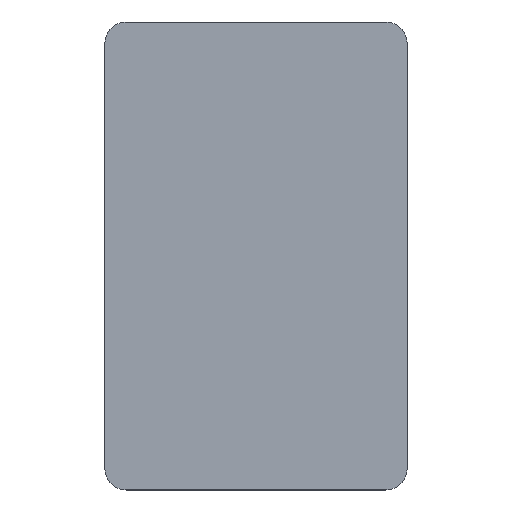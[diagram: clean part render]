
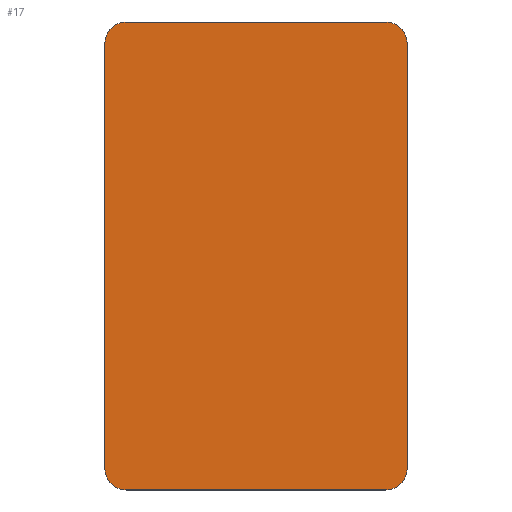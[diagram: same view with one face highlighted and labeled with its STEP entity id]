
A CAD part, top view. The second image highlights one B-rep face of the part: STEP entity #17.
In plain terms, the highlighted planar face has unit normal (0, 0, 1).
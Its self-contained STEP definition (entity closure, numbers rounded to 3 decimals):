
#17 = ADVANCED_FACE('',(#18),#33,.T.);
#18 = FACE_BOUND('',#19,.T.);
#19 = EDGE_LOOP('',(#20,#56,#84,#113,#141,#170,#198,#227));
#20 = ORIENTED_EDGE('',*,*,#21,.T.);
#21 = EDGE_CURVE('',#22,#24,#26,.T.);
#22 = VERTEX_POINT('',#23);
#23 = CARTESIAN_POINT('',(-21.,-35.5,-0.4));
#24 = VERTEX_POINT('',#25);
#25 = CARTESIAN_POINT('',(-18.,-38.5,-0.4));
#26 = SURFACE_CURVE('',#27,(#32,#44),.PCURVE_S1.);
#27 = CIRCLE('',#28,3.);
#28 = AXIS2_PLACEMENT_3D('',#29,#30,#31);
#29 = CARTESIAN_POINT('',(-18.,-35.5,-0.4));
#30 = DIRECTION('',(0.,0.,1.));
#31 = DIRECTION('',(1.,0.,-0.));
#32 = PCURVE('',#33,#38);
#33 = PLANE('',#34);
#34 = AXIS2_PLACEMENT_3D('',#35,#36,#37);
#35 = CARTESIAN_POINT('',(-18.,-38.5,-0.4));
#36 = DIRECTION('',(0.,0.,1.));
#37 = DIRECTION('',(1.,0.,-0.));
#38 = DEFINITIONAL_REPRESENTATION('',(#39),#43);
#39 = CIRCLE('',#40,3.);
#40 = AXIS2_PLACEMENT_2D('',#41,#42);
#41 = CARTESIAN_POINT('',(0.,3.));
#42 = DIRECTION('',(1.,0.));
#43 = ( GEOMETRIC_REPRESENTATION_CONTEXT(2) 
PARAMETRIC_REPRESENTATION_CONTEXT() REPRESENTATION_CONTEXT('2D SPACE',''
  ) );
#44 = PCURVE('',#45,#50);
#45 = CYLINDRICAL_SURFACE('',#46,3.);
#46 = AXIS2_PLACEMENT_3D('',#47,#48,#49);
#47 = CARTESIAN_POINT('',(-18.,-35.5,-1.6));
#48 = DIRECTION('',(0.,0.,1.));
#49 = DIRECTION('',(1.,0.,-0.));
#50 = DEFINITIONAL_REPRESENTATION('',(#51),#55);
#51 = LINE('',#52,#53);
#52 = CARTESIAN_POINT('',(0.,1.2));
#53 = VECTOR('',#54,1.);
#54 = DIRECTION('',(1.,0.));
#55 = ( GEOMETRIC_REPRESENTATION_CONTEXT(2) 
PARAMETRIC_REPRESENTATION_CONTEXT() REPRESENTATION_CONTEXT('2D SPACE',''
  ) );
#56 = ORIENTED_EDGE('',*,*,#57,.T.);
#57 = EDGE_CURVE('',#24,#58,#60,.T.);
#58 = VERTEX_POINT('',#59);
#59 = CARTESIAN_POINT('',(18.,-38.5,-0.4));
#60 = SURFACE_CURVE('',#61,(#65,#72),.PCURVE_S1.);
#61 = LINE('',#62,#63);
#62 = CARTESIAN_POINT('',(-18.,-38.5,-0.4));
#63 = VECTOR('',#64,1.);
#64 = DIRECTION('',(1.,0.,-0.));
#65 = PCURVE('',#33,#66);
#66 = DEFINITIONAL_REPRESENTATION('',(#67),#71);
#67 = LINE('',#68,#69);
#68 = CARTESIAN_POINT('',(0.,0.));
#69 = VECTOR('',#70,1.);
#70 = DIRECTION('',(1.,0.));
#71 = ( GEOMETRIC_REPRESENTATION_CONTEXT(2) 
PARAMETRIC_REPRESENTATION_CONTEXT() REPRESENTATION_CONTEXT('2D SPACE',''
  ) );
#72 = PCURVE('',#73,#78);
#73 = PLANE('',#74);
#74 = AXIS2_PLACEMENT_3D('',#75,#76,#77);
#75 = CARTESIAN_POINT('',(-18.,-38.5,-1.6));
#76 = DIRECTION('',(-0.,1.,0.));
#77 = DIRECTION('',(0.,0.,1.));
#78 = DEFINITIONAL_REPRESENTATION('',(#79),#83);
#79 = LINE('',#80,#81);
#80 = CARTESIAN_POINT('',(1.2,0.));
#81 = VECTOR('',#82,1.);
#82 = DIRECTION('',(0.,1.));
#83 = ( GEOMETRIC_REPRESENTATION_CONTEXT(2) 
PARAMETRIC_REPRESENTATION_CONTEXT() REPRESENTATION_CONTEXT('2D SPACE',''
  ) );
#84 = ORIENTED_EDGE('',*,*,#85,.T.);
#85 = EDGE_CURVE('',#58,#86,#88,.T.);
#86 = VERTEX_POINT('',#87);
#87 = CARTESIAN_POINT('',(21.,-35.5,-0.4));
#88 = SURFACE_CURVE('',#89,(#94,#101),.PCURVE_S1.);
#89 = CIRCLE('',#90,3.);
#90 = AXIS2_PLACEMENT_3D('',#91,#92,#93);
#91 = CARTESIAN_POINT('',(18.,-35.5,-0.4));
#92 = DIRECTION('',(0.,0.,1.));
#93 = DIRECTION('',(1.,0.,-0.));
#94 = PCURVE('',#33,#95);
#95 = DEFINITIONAL_REPRESENTATION('',(#96),#100);
#96 = CIRCLE('',#97,3.);
#97 = AXIS2_PLACEMENT_2D('',#98,#99);
#98 = CARTESIAN_POINT('',(36.,3.));
#99 = DIRECTION('',(1.,0.));
#100 = ( GEOMETRIC_REPRESENTATION_CONTEXT(2) 
PARAMETRIC_REPRESENTATION_CONTEXT() REPRESENTATION_CONTEXT('2D SPACE',''
  ) );
#101 = PCURVE('',#102,#107);
#102 = CYLINDRICAL_SURFACE('',#103,3.);
#103 = AXIS2_PLACEMENT_3D('',#104,#105,#106);
#104 = CARTESIAN_POINT('',(18.,-35.5,-1.6));
#105 = DIRECTION('',(0.,0.,1.));
#106 = DIRECTION('',(1.,0.,-0.));
#107 = DEFINITIONAL_REPRESENTATION('',(#108),#112);
#108 = LINE('',#109,#110);
#109 = CARTESIAN_POINT('',(0.,1.2));
#110 = VECTOR('',#111,1.);
#111 = DIRECTION('',(1.,0.));
#112 = ( GEOMETRIC_REPRESENTATION_CONTEXT(2) 
PARAMETRIC_REPRESENTATION_CONTEXT() REPRESENTATION_CONTEXT('2D SPACE',''
  ) );
#113 = ORIENTED_EDGE('',*,*,#114,.T.);
#114 = EDGE_CURVE('',#86,#115,#117,.T.);
#115 = VERTEX_POINT('',#116);
#116 = CARTESIAN_POINT('',(21.,23.5,-0.4));
#117 = SURFACE_CURVE('',#118,(#122,#129),.PCURVE_S1.);
#118 = LINE('',#119,#120);
#119 = CARTESIAN_POINT('',(21.,-35.5,-0.4));
#120 = VECTOR('',#121,1.);
#121 = DIRECTION('',(-0.,1.,0.));
#122 = PCURVE('',#33,#123);
#123 = DEFINITIONAL_REPRESENTATION('',(#124),#128);
#124 = LINE('',#125,#126);
#125 = CARTESIAN_POINT('',(39.,3.));
#126 = VECTOR('',#127,1.);
#127 = DIRECTION('',(0.,1.));
#128 = ( GEOMETRIC_REPRESENTATION_CONTEXT(2) 
PARAMETRIC_REPRESENTATION_CONTEXT() REPRESENTATION_CONTEXT('2D SPACE',''
  ) );
#129 = PCURVE('',#130,#135);
#130 = PLANE('',#131);
#131 = AXIS2_PLACEMENT_3D('',#132,#133,#134);
#132 = CARTESIAN_POINT('',(21.,-35.5,-1.6));
#133 = DIRECTION('',(1.,0.,-0.));
#134 = DIRECTION('',(0.,0.,1.));
#135 = DEFINITIONAL_REPRESENTATION('',(#136),#140);
#136 = LINE('',#137,#138);
#137 = CARTESIAN_POINT('',(1.2,0.));
#138 = VECTOR('',#139,1.);
#139 = DIRECTION('',(0.,-1.));
#140 = ( GEOMETRIC_REPRESENTATION_CONTEXT(2) 
PARAMETRIC_REPRESENTATION_CONTEXT() REPRESENTATION_CONTEXT('2D SPACE',''
  ) );
#141 = ORIENTED_EDGE('',*,*,#142,.T.);
#142 = EDGE_CURVE('',#115,#143,#145,.T.);
#143 = VERTEX_POINT('',#144);
#144 = CARTESIAN_POINT('',(18.,26.5,-0.4));
#145 = SURFACE_CURVE('',#146,(#151,#158),.PCURVE_S1.);
#146 = CIRCLE('',#147,3.);
#147 = AXIS2_PLACEMENT_3D('',#148,#149,#150);
#148 = CARTESIAN_POINT('',(18.,23.5,-0.4));
#149 = DIRECTION('',(0.,0.,1.));
#150 = DIRECTION('',(1.,0.,-0.));
#151 = PCURVE('',#33,#152);
#152 = DEFINITIONAL_REPRESENTATION('',(#153),#157);
#153 = CIRCLE('',#154,3.);
#154 = AXIS2_PLACEMENT_2D('',#155,#156);
#155 = CARTESIAN_POINT('',(36.,62.));
#156 = DIRECTION('',(1.,0.));
#157 = ( GEOMETRIC_REPRESENTATION_CONTEXT(2) 
PARAMETRIC_REPRESENTATION_CONTEXT() REPRESENTATION_CONTEXT('2D SPACE',''
  ) );
#158 = PCURVE('',#159,#164);
#159 = CYLINDRICAL_SURFACE('',#160,3.);
#160 = AXIS2_PLACEMENT_3D('',#161,#162,#163);
#161 = CARTESIAN_POINT('',(18.,23.5,-1.6));
#162 = DIRECTION('',(0.,0.,1.));
#163 = DIRECTION('',(1.,0.,-0.));
#164 = DEFINITIONAL_REPRESENTATION('',(#165),#169);
#165 = LINE('',#166,#167);
#166 = CARTESIAN_POINT('',(0.,1.2));
#167 = VECTOR('',#168,1.);
#168 = DIRECTION('',(1.,0.));
#169 = ( GEOMETRIC_REPRESENTATION_CONTEXT(2) 
PARAMETRIC_REPRESENTATION_CONTEXT() REPRESENTATION_CONTEXT('2D SPACE',''
  ) );
#170 = ORIENTED_EDGE('',*,*,#171,.F.);
#171 = EDGE_CURVE('',#172,#143,#174,.T.);
#172 = VERTEX_POINT('',#173);
#173 = CARTESIAN_POINT('',(-18.,26.5,-0.4));
#174 = SURFACE_CURVE('',#175,(#179,#186),.PCURVE_S1.);
#175 = LINE('',#176,#177);
#176 = CARTESIAN_POINT('',(-18.,26.5,-0.4));
#177 = VECTOR('',#178,1.);
#178 = DIRECTION('',(1.,0.,-0.));
#179 = PCURVE('',#33,#180);
#180 = DEFINITIONAL_REPRESENTATION('',(#181),#185);
#181 = LINE('',#182,#183);
#182 = CARTESIAN_POINT('',(0.,65.));
#183 = VECTOR('',#184,1.);
#184 = DIRECTION('',(1.,0.));
#185 = ( GEOMETRIC_REPRESENTATION_CONTEXT(2) 
PARAMETRIC_REPRESENTATION_CONTEXT() REPRESENTATION_CONTEXT('2D SPACE',''
  ) );
#186 = PCURVE('',#187,#192);
#187 = PLANE('',#188);
#188 = AXIS2_PLACEMENT_3D('',#189,#190,#191);
#189 = CARTESIAN_POINT('',(-18.,26.5,-1.6));
#190 = DIRECTION('',(-0.,1.,0.));
#191 = DIRECTION('',(0.,0.,1.));
#192 = DEFINITIONAL_REPRESENTATION('',(#193),#197);
#193 = LINE('',#194,#195);
#194 = CARTESIAN_POINT('',(1.2,0.));
#195 = VECTOR('',#196,1.);
#196 = DIRECTION('',(0.,1.));
#197 = ( GEOMETRIC_REPRESENTATION_CONTEXT(2) 
PARAMETRIC_REPRESENTATION_CONTEXT() REPRESENTATION_CONTEXT('2D SPACE',''
  ) );
#198 = ORIENTED_EDGE('',*,*,#199,.T.);
#199 = EDGE_CURVE('',#172,#200,#202,.T.);
#200 = VERTEX_POINT('',#201);
#201 = CARTESIAN_POINT('',(-21.,23.5,-0.4));
#202 = SURFACE_CURVE('',#203,(#208,#215),.PCURVE_S1.);
#203 = CIRCLE('',#204,3.);
#204 = AXIS2_PLACEMENT_3D('',#205,#206,#207);
#205 = CARTESIAN_POINT('',(-18.,23.5,-0.4));
#206 = DIRECTION('',(0.,0.,1.));
#207 = DIRECTION('',(1.,0.,-0.));
#208 = PCURVE('',#33,#209);
#209 = DEFINITIONAL_REPRESENTATION('',(#210),#214);
#210 = CIRCLE('',#211,3.);
#211 = AXIS2_PLACEMENT_2D('',#212,#213);
#212 = CARTESIAN_POINT('',(0.,62.));
#213 = DIRECTION('',(1.,0.));
#214 = ( GEOMETRIC_REPRESENTATION_CONTEXT(2) 
PARAMETRIC_REPRESENTATION_CONTEXT() REPRESENTATION_CONTEXT('2D SPACE',''
  ) );
#215 = PCURVE('',#216,#221);
#216 = CYLINDRICAL_SURFACE('',#217,3.);
#217 = AXIS2_PLACEMENT_3D('',#218,#219,#220);
#218 = CARTESIAN_POINT('',(-18.,23.5,-1.6));
#219 = DIRECTION('',(0.,0.,1.));
#220 = DIRECTION('',(1.,0.,-0.));
#221 = DEFINITIONAL_REPRESENTATION('',(#222),#226);
#222 = LINE('',#223,#224);
#223 = CARTESIAN_POINT('',(0.,1.2));
#224 = VECTOR('',#225,1.);
#225 = DIRECTION('',(1.,0.));
#226 = ( GEOMETRIC_REPRESENTATION_CONTEXT(2) 
PARAMETRIC_REPRESENTATION_CONTEXT() REPRESENTATION_CONTEXT('2D SPACE',''
  ) );
#227 = ORIENTED_EDGE('',*,*,#228,.F.);
#228 = EDGE_CURVE('',#22,#200,#229,.T.);
#229 = SURFACE_CURVE('',#230,(#234,#241),.PCURVE_S1.);
#230 = LINE('',#231,#232);
#231 = CARTESIAN_POINT('',(-21.,-35.5,-0.4));
#232 = VECTOR('',#233,1.);
#233 = DIRECTION('',(-0.,1.,0.));
#234 = PCURVE('',#33,#235);
#235 = DEFINITIONAL_REPRESENTATION('',(#236),#240);
#236 = LINE('',#237,#238);
#237 = CARTESIAN_POINT('',(-3.,3.));
#238 = VECTOR('',#239,1.);
#239 = DIRECTION('',(0.,1.));
#240 = ( GEOMETRIC_REPRESENTATION_CONTEXT(2) 
PARAMETRIC_REPRESENTATION_CONTEXT() REPRESENTATION_CONTEXT('2D SPACE',''
  ) );
#241 = PCURVE('',#242,#247);
#242 = PLANE('',#243);
#243 = AXIS2_PLACEMENT_3D('',#244,#245,#246);
#244 = CARTESIAN_POINT('',(-21.,-35.5,-1.6));
#245 = DIRECTION('',(1.,0.,-0.));
#246 = DIRECTION('',(0.,0.,1.));
#247 = DEFINITIONAL_REPRESENTATION('',(#248),#252);
#248 = LINE('',#249,#250);
#249 = CARTESIAN_POINT('',(1.2,0.));
#250 = VECTOR('',#251,1.);
#251 = DIRECTION('',(0.,-1.));
#252 = ( GEOMETRIC_REPRESENTATION_CONTEXT(2) 
PARAMETRIC_REPRESENTATION_CONTEXT() REPRESENTATION_CONTEXT('2D SPACE',''
  ) );
